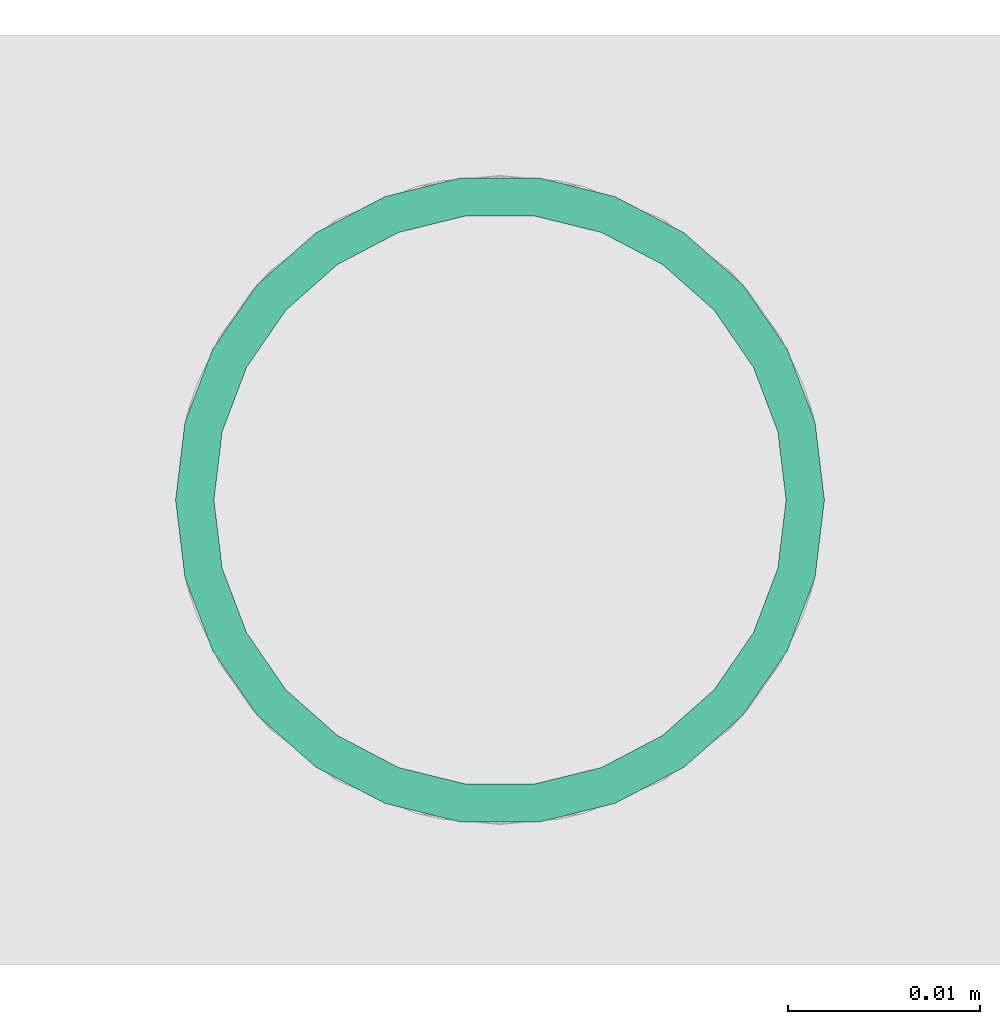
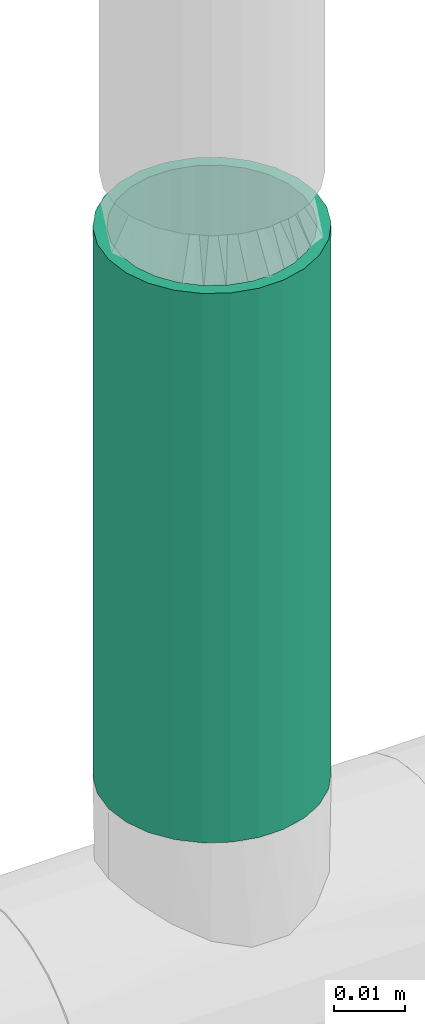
# One storey, part 2 of 14: 1 flow segment.
"""IFC2X3 building model written with IfcOpenShell, lengths in millimetres."""

from ifc_helpers import new_model, entity, si_unit, converted_unit, derived_unit, direction, frame, origin_with_axes, origin_2d_with_axis, place, context, subcontext, project, spatial, hollow_circle, extrude, source, transform, mapped, type_object, element, save


model = new_model("IFC2X3")

# Units and contexts
model_context = context("Model", 3, precision=0.01, world=frame((0.0, 4.29681676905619e-09, 0.0)), true_north=direction((4.01073788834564e-13, 1.0)))
plan_context = context("Plan", 3, precision=0.01, world=frame((0.0, 4.29681676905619e-09, 0.0)), true_north=direction((4.01073788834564e-13, 1.0)))
body_context = subcontext(model_context, "Body", "Model", "MODEL_VIEW")
ifc_project = project(units=[converted_unit("PLANEANGLEUNIT", "DEGREE", entity("IfcPositiveLengthMeasure", 0.0174532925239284), si_unit("PLANEANGLEUNIT", "RADIAN"), dimensions=[0, 0, 0, 0, 0, 0, 0]), si_unit("AREAUNIT", "SQUARE_METRE"), si_unit("LENGTHUNIT", "METRE", prefix="MILLI"), si_unit("MASSUNIT", "GRAM", prefix="KILO"), si_unit("POWERUNIT", "WATT"), si_unit("PRESSUREUNIT", "PASCAL"), si_unit("FORCEUNIT", "NEWTON", prefix="KILO"), si_unit("ELECTRICVOLTAGEUNIT", "VOLT"), si_unit("ELECTRICCURRENTUNIT", "AMPERE"), si_unit("THERMODYNAMICTEMPERATUREUNIT", "DEGREE_CELSIUS"), si_unit("TIMEUNIT", "SECOND"), si_unit("VOLUMEUNIT", "CUBIC_METRE"), derived_unit("LINEARVELOCITYUNIT", [(si_unit("LENGTHUNIT", "METRE"), 1), (si_unit("TIMEUNIT", "SECOND"), -1)]), derived_unit("VOLUMETRICFLOWRATEUNIT", [(si_unit("VOLUMEUNIT", "CUBIC_METRE"), 1), (si_unit("TIMEUNIT", "SECOND"), -1)]), derived_unit("THERMALTRANSMITTANCEUNIT", [(si_unit("POWERUNIT", "WATT"), 1), (si_unit("THERMODYNAMICTEMPERATUREUNIT", "KELVIN"), -1), (si_unit("AREAUNIT", "SQUARE_METRE"), -1)]), derived_unit("SOUNDPRESSUREUNIT", [(si_unit("PRESSUREUNIT", "PASCAL"), 1)])], contexts=[model_context, plan_context])

# Site, building, storey
site_placement = place(None, frame((0.0, -4.29681676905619e-09, 0.0), z_axis=(0.0, 0.0, 1.0), x_axis=(1.0, 0.0, 0.0)))
site = spatial("IfcSite", under=ifc_project, at=site_placement, CompositionType="ELEMENT")
building_placement = place(site_placement, frame((0.0, 4.29681676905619e-09, 0.0), z_axis=(0.0, 0.0, 1.0), x_axis=(1.0, 0.0, 0.0)))
building = spatial("IfcBuilding", under=site, at=building_placement, Name="mc-building", CompositionType="ELEMENT")
storey_placement = place(building_placement, frame((0.0, 0.0, 204000.0), z_axis=(0.0, 0.0, 1.0), x_axis=(1.0, 0.0, 0.0)))
storey = spatial("IfcBuildingStorey", under=building, at=storey_placement, Name="Nivå D", CompositionType="ELEMENT", Elevation=204000.0)

# Flow segment
pipe_segment_type = type_object("IfcPipeSegmentType", Name="Stålrør normaltykke", PredefinedType="RIGIDSEGMENT")
shared_shape = source(origin_with_axes(), body_context, "Body", "SweptSolid", [
    extrude(hollow_circle(Radius=16.9, WallThickness=2.0, at=origin_2d_with_axis()), frame((0.0, 0.0, 0.0), z_axis=(1.0, 0.0, 0.0), x_axis=(0.0, 1.0, 0.0)), (0.0, 0.0, 1.0), 95.0),
])
flow_segment_placement = place(storey_placement, frame((601000.0, 693802.46783, 6165.62645000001), z_axis=(0.0, 1.0, 0.0), x_axis=(0.0, 0.0, 1.0)))
element("IfcFlowSegment", 1, at=flow_segment_placement, inside=storey, type_object=pipe_segment_type, Name="Stålrør normaltykke", context=body_context, shape_type="MappedRepresentation", body=[
    mapped(shared_shape, transform((0.0, 0.0, 0.0), scale=1.0)),
])

save(model, "model.ifc")
